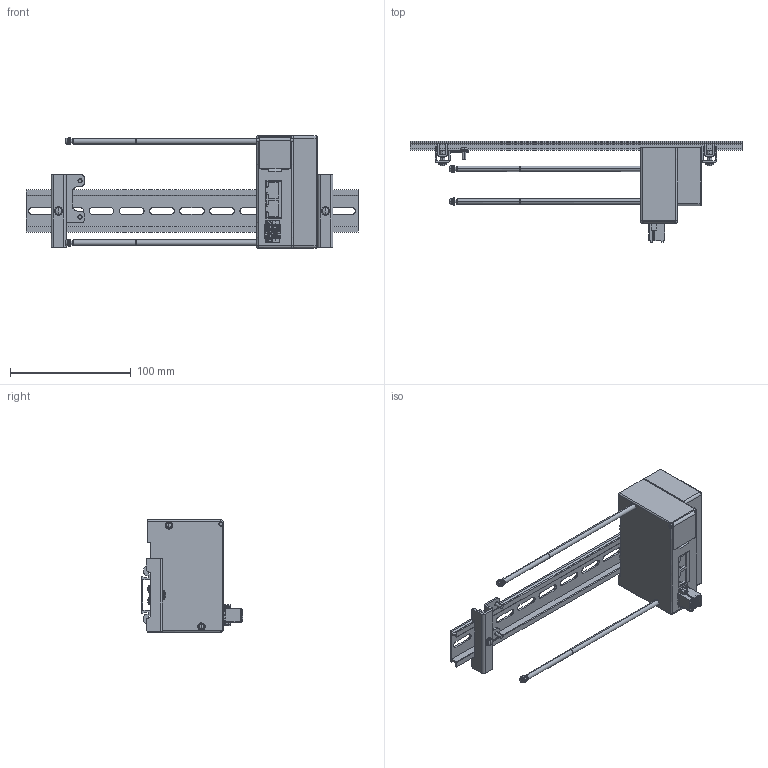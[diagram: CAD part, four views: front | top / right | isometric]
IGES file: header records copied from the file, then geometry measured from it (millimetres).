
Start section: ------------------------------------------------------------------------
Bounding box: 275 x 84.4 x 93 mm (x, y, z)
Volume: 288323.3 mm3; surface area: 75532.1 mm2
Topology: 4 solids, 4 shells, 1047 faces, 2751 edges, 1765 vertices
Faces by surface type: bspline 1047
